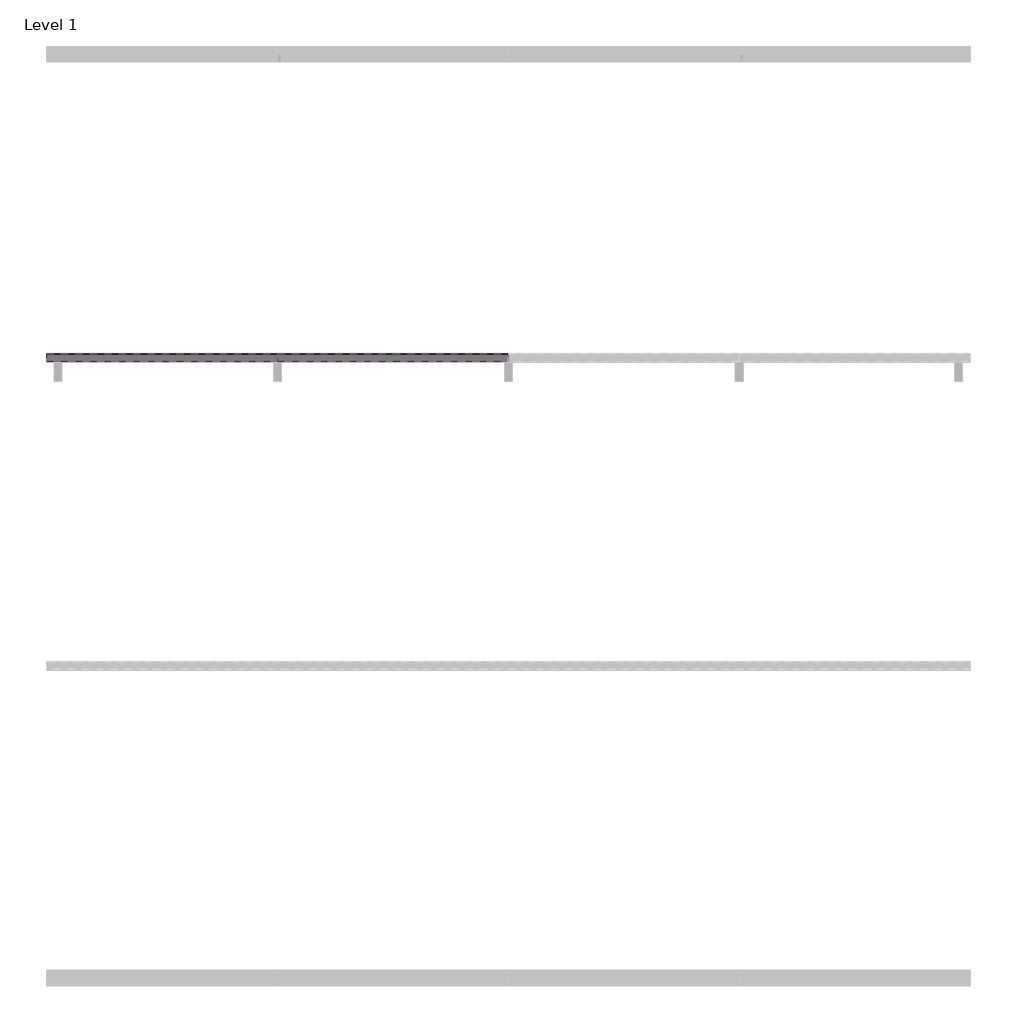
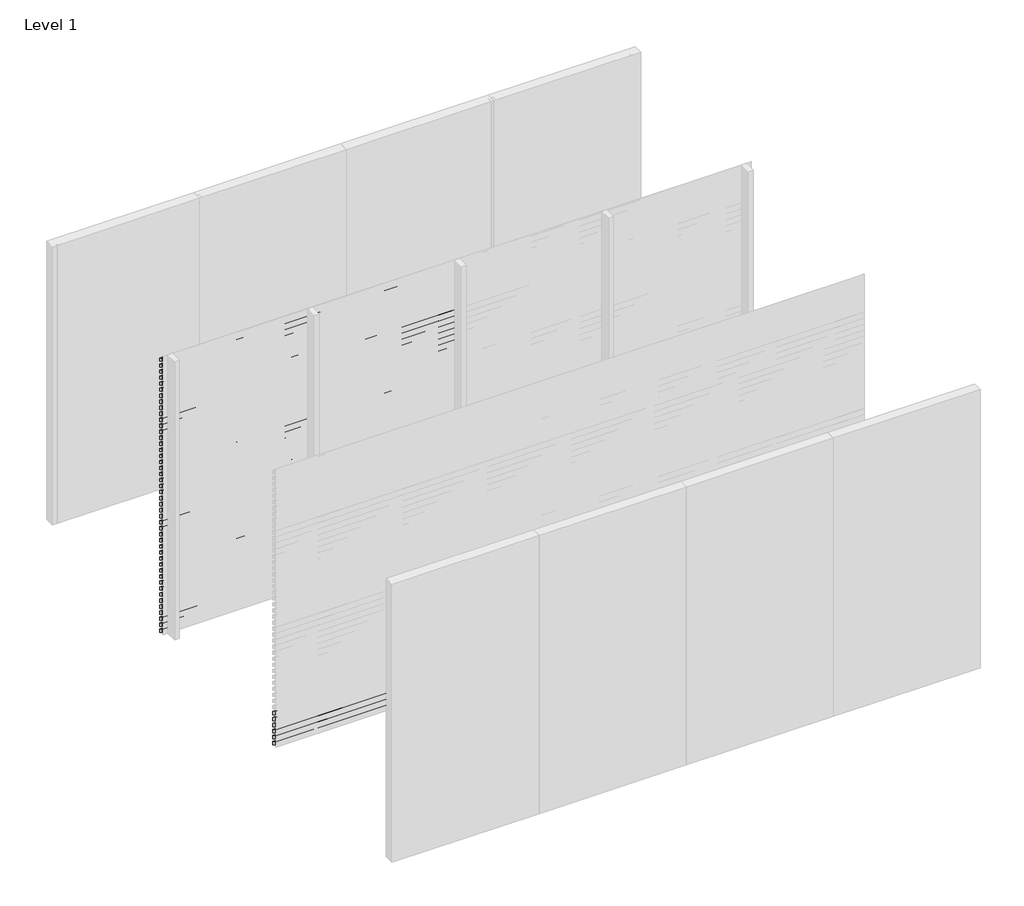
# One storey, part 2 of 10: 96 proxies.
"""IFC4 building model written with IfcOpenShell, lengths in millimetres."""

import ifcopenshell
import ifcopenshell.guid

model = None  # the IFC model being written
_history = None  # IfcOwnerHistory: only IFC2X3 demands one
_inside = {}  # id of a spatial element -> (the spatial element, [elements in it])
_under = {}  # id of a project, library or spatial element -> (it, [spatial elements below it])
_declared = {}  # id of a project -> (the project, [libraries it declares])
_typed = {}  # id of a type object -> (the type object, [elements of that type])
_made_of = {}  # id of a material, layer set ... -> (it, [elements and type objects made of it])


def new_model(schema):
    """Start an empty IFC model of exactly this schema.

    Asked for "IFC4X3", IfcOpenShell would pick the latest addendum, in which some entities
    have other attributes; the version numbers below select the first issue.
    IFC2X3 requires an IfcOwnerHistory on every rooted entity: one is made here for all.
    """
    global model, _history
    if schema == "IFC4X3":
        model = ifcopenshell.file(schema_version=(4, 3, 0, 0))
    else:
        model = ifcopenshell.file(schema=schema)
    _inside.clear()
    _under.clear()
    _declared.clear()
    _typed.clear()
    _made_of.clear()
    _history = None
    if model.schema == "IFC2X3":
        org = make("IfcOrganization", Name="unknown")
        user = make(
            "IfcPersonAndOrganization",
            ThePerson=make("IfcPerson", FamilyName="unknown"),
            TheOrganization=org,
        )
        app = make(
            "IfcApplication",
            ApplicationDeveloper=org,
            Version="unknown",
            ApplicationFullName="unknown",
            ApplicationIdentifier="unknown",
        )
        _history = make(
            "IfcOwnerHistory",
            OwningUser=user,
            OwningApplication=app,
            ChangeAction="ADDED",
            CreationDate=0,
        )
    return model


def make(cls, **values):
    """One entity of the class cls with the attributes given. An attribute that is None is left unset."""
    return model.create_entity(
        cls, **{name: value for name, value in values.items() if value is not None}
    )


def rooted(cls, **values):
    """An entity with a GlobalId (a new one), such as an element, a storey or a relation."""
    return make(cls, GlobalId=ifcopenshell.guid.new(), OwnerHistory=_history, **values)


def si_unit(unit_type, name, prefix=None):
    """IfcSIUnit, for example si_unit("LENGTHUNIT", "METRE", prefix="MILLI")."""
    return make("IfcSIUnit", UnitType=unit_type, Prefix=prefix, Name=name)


def assignment(units):
    """IfcUnitAssignment: the units of a project."""
    return None if units is None else make("IfcUnitAssignment", Units=units)


def point(xyz):
    """IfcCartesianPoint."""
    return None if xyz is None else make("IfcCartesianPoint", Coordinates=xyz)


def direction(xyz):
    """IfcDirection."""
    return None if xyz is None else make("IfcDirection", DirectionRatios=xyz)


def frame(location, z_axis=None, x_axis=None):
    """IfcAxis2Placement3D, a coordinate frame: its origin and axes. An axis left out is left unset."""
    return make(
        "IfcAxis2Placement3D",
        Location=point(location),
        Axis=direction(z_axis),
        RefDirection=direction(x_axis),
    )


def origin():
    """The frame at (0, 0, 0) with its axes left unset."""
    return frame((0.0, 0.0, 0.0))


def place(relative_to, where):
    """IfcLocalPlacement: puts the frame where relative to a parent placement (None: the world)."""
    return make(
        "IfcLocalPlacement", PlacementRelTo=relative_to, RelativePlacement=where
    )


def context(
    kind, dimensions, precision=None, world=None, true_north=None, identifier=None
):
    """IfcGeometricRepresentationContext, for example the 3D "Model" context."""
    return make(
        "IfcGeometricRepresentationContext",
        ContextIdentifier=identifier,
        ContextType=kind,
        CoordinateSpaceDimension=dimensions,
        Precision=precision,
        WorldCoordinateSystem=world,
        TrueNorth=true_north,
    )


def project(units=None, contexts=None):
    """IfcProject with its units and contexts."""
    return rooted(
        "IfcProject",
        Name="project",
        RepresentationContexts=contexts,
        UnitsInContext=assignment(units),
    )


def spatial(cls, under=None, at=None, **own):
    """A site, building, storey or space (cls), placed at a placement, below another one or the project."""
    s = rooted(cls, ObjectPlacement=at, **own)
    if under is not None:
        _under.setdefault(under.id(), (under, []))[1].append(s)
    return s


def polyline(points):
    """IfcPolyline through the points."""
    return make("IfcPolyline", Points=[point(p) for p in points])


def outline(outer, holes=None, kind="AREA"):
    """IfcArbitraryClosedProfileDef: a profile drawn as a closed curve; with holes, ...WithVoids."""
    if holes is None:
        return make("IfcArbitraryClosedProfileDef", ProfileType=kind, OuterCurve=outer)
    return make(
        "IfcArbitraryProfileDefWithVoids",
        ProfileType=kind,
        OuterCurve=outer,
        InnerCurves=holes,
    )


def extrude(swept, where, along, depth):
    """IfcExtrudedAreaSolid: the profile swept, set in the frame where, extruded along a direction by depth."""
    return make(
        "IfcExtrudedAreaSolid",
        SweptArea=swept,
        Position=where,
        ExtrudedDirection=direction(along),
        Depth=depth,
    )


def shape(context_of_items, identifier, shape_type, items):
    """IfcShapeRepresentation: the items that make up one representation, for example the "Body"."""
    return make(
        "IfcShapeRepresentation",
        ContextOfItems=context_of_items,
        RepresentationIdentifier=identifier,
        RepresentationType=shape_type,
        Items=items,
    )


def made_of(thing, what):
    """Note that an element or type object is made of a material, layer set ...; save() writes the relation."""
    if what is not None:
        _made_of.setdefault(what.id(), (what, []))[1].append(thing)
    return thing


def element(
    cls,
    number,
    at=None,
    inside=None,
    cuts=None,
    type_object=None,
    material=None,
    context=None,
    identifier="Body",
    shape_type=None,
    held_by="IfcProductDefinitionShape",
    body=None,
    shapes=None,
    **own,
):
    """One element of the class cls, such as IfcWall. Its Tag is "e" and its number.

    at: its placement. inside: the storey or other place that contains it. cuts: it is an
    opening in that element (IfcRelVoidsElement). A single representation is given by context,
    identifier, shape_type and body (its items); several are given by shapes. held_by: the class
    of the entity that holds the representations. save() writes the other relations.
    """
    e = rooted(cls, Tag="e%d" % number, ObjectPlacement=at, **own)
    if body is not None:
        shapes = [shape(context, identifier, shape_type, body)]
    if shapes is not None:
        e.Representation = make(held_by, Representations=shapes)
    if inside is not None:
        _inside.setdefault(inside.id(), (inside, []))[1].append(e)
    if cuts is not None:
        rooted(
            "IfcRelVoidsElement", RelatingBuildingElement=cuts, RelatedOpeningElement=e
        )
    if type_object is not None:
        _typed.setdefault(type_object.id(), (type_object, []))[1].append(e)
    return made_of(e, material)


def aggregate(whole, parts):
    """IfcRelAggregates: a whole, such as a stair, and the parts it consists of."""
    return rooted("IfcRelAggregates", RelatingObject=whole, RelatedObjects=parts)


def save(model, path):
    """Write the relations noted so far, then the file.

    IfcRelAggregates (storeys below a building ...), IfcRelContainedInSpatialStructure (elements
    in a storey), IfcRelDefinesByType, IfcRelAssociatesMaterial and IfcRelDeclares: one each for
    every whole, place, type object, material and project.
    """
    for whole, parts in _under.values():
        aggregate(whole, parts)
    for where, things in _inside.values():
        rooted(
            "IfcRelContainedInSpatialStructure",
            RelatedElements=things,
            RelatingStructure=where,
        )
    for kind, things in _typed.values():
        rooted("IfcRelDefinesByType", RelatedObjects=things, RelatingType=kind)
    for what, things in _made_of.values():
        rooted("IfcRelAssociatesMaterial", RelatedObjects=things, RelatingMaterial=what)
    for by, libraries in _declared.values():
        rooted("IfcRelDeclares", RelatingContext=by, RelatedDefinitions=libraries)
    model.write(path)


model = new_model("IFC4")

# Units and contexts
model_context = context("Model", 3, world=origin())
ifc_project = project(units=[si_unit("LENGTHUNIT", "METRE", prefix="MILLI")], contexts=[model_context])

# Site, building, storey
site = spatial("IfcSite", under=ifc_project)
building = spatial("IfcBuilding", under=site)
storey = spatial("IfcBuildingStorey", under=building, Name="Level 1", Elevation=0.0)

# Proxies
placement = place(None, origin())
element("IfcBuildingElementProxy", 1, Name="Wall Sweeps", at=placement, inside=storey, context=model_context, shape_type="SweptSolid", body=[
    extrude(outline(polyline([(-17995.0, 2990.0), (-17995.0, 2981.2901632), (-17946.0, 2953.0), (-17946.0, 2918.0), (-17997.0, 2947.4448637), (-17997.0, 2990.0), (-17995.0, 2990.0)])), frame((1500.0000002, 0.0, 0.0), z_axis=(1.0, 0.0, 0.0), x_axis=(0.0, 1.0, 0.0)), (0.0, 0.0, 1.0), 1499.9999998),
])
element("IfcBuildingElementProxy", 2, Name="Wall Sweeps", at=placement, inside=storey, context=model_context, shape_type="SweptSolid", body=[
    extrude(outline(polyline([(-17995.0, 2925.0), (-17995.0, 2916.2901632), (-17946.0, 2888.0), (-17946.0, 2853.0), (-17997.0, 2882.4448637), (-17997.0, 2925.0), (-17995.0, 2925.0)])), frame((1500.0000002, 0.0, 0.0), z_axis=(1.0, 0.0, 0.0), x_axis=(0.0, 1.0, 0.0)), (0.0, 0.0, 1.0), 1499.9999998),
])
element("IfcBuildingElementProxy", 3, Name="Wall Sweeps", at=placement, inside=storey, context=model_context, shape_type="SweptSolid", body=[
    extrude(outline(polyline([(-17995.0, 2860.0), (-17995.0, 2851.2901632), (-17946.0, 2823.0), (-17946.0, 2788.0), (-17997.0, 2817.4448637), (-17997.0, 2860.0), (-17995.0, 2860.0)])), frame((1500.0000002, 0.0, 0.0), z_axis=(1.0, 0.0, 0.0), x_axis=(0.0, 1.0, 0.0)), (0.0, 0.0, 1.0), 1499.9999998),
])
element("IfcBuildingElementProxy", 4, Name="Wall Sweeps", at=placement, inside=storey, context=model_context, shape_type="SweptSolid", body=[
    extrude(outline(polyline([(-17995.0, 2795.0), (-17995.0, 2786.2901632), (-17946.0, 2758.0), (-17946.0, 2723.0), (-17997.0, 2752.4448637), (-17997.0, 2795.0), (-17995.0, 2795.0)])), frame((1500.0000002, 0.0, 0.0), z_axis=(1.0, 0.0, 0.0), x_axis=(0.0, 1.0, 0.0)), (0.0, 0.0, 1.0), 1499.9999998),
])
element("IfcBuildingElementProxy", 5, Name="Wall Sweeps", at=placement, inside=storey, context=model_context, shape_type="SweptSolid", body=[
    extrude(outline(polyline([(-17995.0, 2730.0), (-17995.0, 2721.2901632), (-17946.0, 2693.0), (-17946.0, 2658.0), (-17997.0, 2687.4448637), (-17997.0, 2730.0), (-17995.0, 2730.0)])), frame((1500.0000002, 0.0, 0.0), z_axis=(1.0, 0.0, 0.0), x_axis=(0.0, 1.0, 0.0)), (0.0, 0.0, 1.0), 1499.9999998),
])
element("IfcBuildingElementProxy", 6, Name="Wall Sweeps", at=placement, inside=storey, context=model_context, shape_type="SweptSolid", body=[
    extrude(outline(polyline([(-17995.0, 2665.0), (-17995.0, 2656.2901632), (-17946.0, 2628.0), (-17946.0, 2593.0), (-17997.0, 2622.4448637), (-17997.0, 2665.0), (-17995.0, 2665.0)])), frame((1500.0000002, 0.0, 0.0), z_axis=(1.0, 0.0, 0.0), x_axis=(0.0, 1.0, 0.0)), (0.0, 0.0, 1.0), 1499.9999998),
])
element("IfcBuildingElementProxy", 7, Name="Wall Sweeps", at=placement, inside=storey, context=model_context, shape_type="SweptSolid", body=[
    extrude(outline(polyline([(-17995.0, 2600.0), (-17995.0, 2591.2901632), (-17946.0, 2563.0), (-17946.0, 2528.0), (-17997.0, 2557.4448637), (-17997.0, 2600.0), (-17995.0, 2600.0)])), frame((1500.0000002, 0.0, 0.0), z_axis=(1.0, 0.0, 0.0), x_axis=(0.0, 1.0, 0.0)), (0.0, 0.0, 1.0), 1499.9999998),
])
element("IfcBuildingElementProxy", 8, Name="Wall Sweeps", at=placement, inside=storey, context=model_context, shape_type="SweptSolid", body=[
    extrude(outline(polyline([(-17995.0, 2535.0), (-17995.0, 2526.2901632), (-17946.0, 2498.0), (-17946.0, 2463.0), (-17997.0, 2492.4448637), (-17997.0, 2535.0), (-17995.0, 2535.0)])), frame((1500.0000002, 0.0, 0.0), z_axis=(1.0, 0.0, 0.0), x_axis=(0.0, 1.0, 0.0)), (0.0, 0.0, 1.0), 1499.9999998),
])
element("IfcBuildingElementProxy", 9, Name="Wall Sweeps", at=placement, inside=storey, context=model_context, shape_type="SweptSolid", body=[
    extrude(outline(polyline([(-17995.0, 2470.0), (-17995.0, 2461.2901632), (-17946.0, 2433.0), (-17946.0, 2398.0), (-17997.0, 2427.4448637), (-17997.0, 2470.0), (-17995.0, 2470.0)])), frame((1500.0000002, 0.0, 0.0), z_axis=(1.0, 0.0, 0.0), x_axis=(0.0, 1.0, 0.0)), (0.0, 0.0, 1.0), 1499.9999998),
])
element("IfcBuildingElementProxy", 10, Name="Wall Sweeps", at=placement, inside=storey, context=model_context, shape_type="SweptSolid", body=[
    extrude(outline(polyline([(-17995.0, 2405.0), (-17995.0, 2396.2901632), (-17946.0, 2368.0), (-17946.0, 2333.0), (-17997.0, 2362.4448637), (-17997.0, 2405.0), (-17995.0, 2405.0)])), frame((1500.0000002, 0.0, 0.0), z_axis=(1.0, 0.0, 0.0), x_axis=(0.0, 1.0, 0.0)), (0.0, 0.0, 1.0), 1499.9999998),
])
element("IfcBuildingElementProxy", 11, Name="Wall Sweeps", at=placement, inside=storey, context=model_context, shape_type="SweptSolid", body=[
    extrude(outline(polyline([(-17995.0, 2340.0), (-17995.0, 2331.2901632), (-17946.0, 2303.0), (-17946.0, 2268.0), (-17997.0, 2297.4448637), (-17997.0, 2340.0), (-17995.0, 2340.0)])), frame((1500.0000002, 0.0, 0.0), z_axis=(1.0, 0.0, 0.0), x_axis=(0.0, 1.0, 0.0)), (0.0, 0.0, 1.0), 1499.9999998),
])
element("IfcBuildingElementProxy", 12, Name="Wall Sweeps", at=placement, inside=storey, context=model_context, shape_type="SweptSolid", body=[
    extrude(outline(polyline([(-17995.0, 2275.0), (-17995.0, 2266.2901632), (-17946.0, 2238.0), (-17946.0, 2203.0), (-17997.0, 2232.4448637), (-17997.0, 2275.0), (-17995.0, 2275.0)])), frame((1500.0000002, 0.0, 0.0), z_axis=(1.0, 0.0, 0.0), x_axis=(0.0, 1.0, 0.0)), (0.0, 0.0, 1.0), 1499.9999998),
])
element("IfcBuildingElementProxy", 13, Name="Wall Sweeps", at=placement, inside=storey, context=model_context, shape_type="SweptSolid", body=[
    extrude(outline(polyline([(-17995.0, 2210.0), (-17995.0, 2201.2901632), (-17946.0, 2173.0), (-17946.0, 2138.0), (-17997.0, 2167.4448637), (-17997.0, 2210.0), (-17995.0, 2210.0)])), frame((1500.0000002, 0.0, 0.0), z_axis=(1.0, 0.0, 0.0), x_axis=(0.0, 1.0, 0.0)), (0.0, 0.0, 1.0), 1499.9999998),
])
element("IfcBuildingElementProxy", 14, Name="Wall Sweeps", at=placement, inside=storey, context=model_context, shape_type="SweptSolid", body=[
    extrude(outline(polyline([(-17995.0, 2145.0), (-17995.0, 2136.2901632), (-17946.0, 2108.0), (-17946.0, 2073.0), (-17997.0, 2102.4448637), (-17997.0, 2145.0), (-17995.0, 2145.0)])), frame((1500.0000002, 0.0, 0.0), z_axis=(1.0, 0.0, 0.0), x_axis=(0.0, 1.0, 0.0)), (0.0, 0.0, 1.0), 1499.9999998),
])
element("IfcBuildingElementProxy", 15, Name="Wall Sweeps", at=placement, inside=storey, context=model_context, shape_type="SweptSolid", body=[
    extrude(outline(polyline([(-17995.0, 2080.0), (-17995.0, 2071.2901632), (-17946.0, 2043.0), (-17946.0, 2008.0), (-17997.0, 2037.4448637), (-17997.0, 2080.0), (-17995.0, 2080.0)])), frame((1500.0000002, 0.0, 0.0), z_axis=(1.0, 0.0, 0.0), x_axis=(0.0, 1.0, 0.0)), (0.0, 0.0, 1.0), 1499.9999998),
])
element("IfcBuildingElementProxy", 16, Name="Wall Sweeps", at=placement, inside=storey, context=model_context, shape_type="SweptSolid", body=[
    extrude(outline(polyline([(-17995.0, 2015.0), (-17995.0, 2006.2901632), (-17946.0, 1978.0), (-17946.0, 1943.0), (-17997.0, 1972.4448637), (-17997.0, 2015.0), (-17995.0, 2015.0)])), frame((1500.0000002, 0.0, 0.0), z_axis=(1.0, 0.0, 0.0), x_axis=(0.0, 1.0, 0.0)), (0.0, 0.0, 1.0), 1499.9999998),
])
element("IfcBuildingElementProxy", 17, Name="Wall Sweeps", at=placement, inside=storey, context=model_context, shape_type="SweptSolid", body=[
    extrude(outline(polyline([(-17995.0, 1950.0), (-17995.0, 1941.2901632), (-17946.0, 1913.0), (-17946.0, 1878.0), (-17997.0, 1907.4448637), (-17997.0, 1950.0), (-17995.0, 1950.0)])), frame((1500.0000002, 0.0, 0.0), z_axis=(1.0, 0.0, 0.0), x_axis=(0.0, 1.0, 0.0)), (0.0, 0.0, 1.0), 1499.9999998),
])
element("IfcBuildingElementProxy", 18, Name="Wall Sweeps", at=placement, inside=storey, context=model_context, shape_type="SweptSolid", body=[
    extrude(outline(polyline([(-17995.0, 1885.0), (-17995.0, 1876.2901632), (-17946.0, 1848.0), (-17946.0, 1813.0), (-17997.0, 1842.4448637), (-17997.0, 1885.0), (-17995.0, 1885.0)])), frame((1500.0000002, 0.0, 0.0), z_axis=(1.0, 0.0, 0.0), x_axis=(0.0, 1.0, 0.0)), (0.0, 0.0, 1.0), 1499.9999998),
])
element("IfcBuildingElementProxy", 19, Name="Wall Sweeps", at=placement, inside=storey, context=model_context, shape_type="SweptSolid", body=[
    extrude(outline(polyline([(-17995.0, 1820.0), (-17995.0, 1811.2901632), (-17946.0, 1783.0), (-17946.0, 1748.0), (-17997.0, 1777.4448637), (-17997.0, 1820.0), (-17995.0, 1820.0)])), frame((1500.0000002, 0.0, 0.0), z_axis=(1.0, 0.0, 0.0), x_axis=(0.0, 1.0, 0.0)), (0.0, 0.0, 1.0), 1499.9999998),
])
element("IfcBuildingElementProxy", 20, Name="Wall Sweeps", at=placement, inside=storey, context=model_context, shape_type="SweptSolid", body=[
    extrude(outline(polyline([(-17995.0, 1755.0), (-17995.0, 1746.2901632), (-17946.0, 1718.0), (-17946.0, 1683.0), (-17997.0, 1712.4448637), (-17997.0, 1755.0), (-17995.0, 1755.0)])), frame((1500.0000002, 0.0, 0.0), z_axis=(1.0, 0.0, 0.0), x_axis=(0.0, 1.0, 0.0)), (0.0, 0.0, 1.0), 1499.9999998),
])
element("IfcBuildingElementProxy", 21, Name="Wall Sweeps", at=placement, inside=storey, context=model_context, shape_type="SweptSolid", body=[
    extrude(outline(polyline([(-17995.0, 1690.0), (-17995.0, 1681.2901632), (-17946.0, 1653.0), (-17946.0, 1618.0), (-17997.0, 1647.4448637), (-17997.0, 1690.0), (-17995.0, 1690.0)])), frame((1500.0000002, 0.0, 0.0), z_axis=(1.0, 0.0, 0.0), x_axis=(0.0, 1.0, 0.0)), (0.0, 0.0, 1.0), 1499.9999998),
])
element("IfcBuildingElementProxy", 22, Name="Wall Sweeps", at=placement, inside=storey, context=model_context, shape_type="SweptSolid", body=[
    extrude(outline(polyline([(-17995.0, 1625.0), (-17995.0, 1616.2901632), (-17946.0, 1588.0), (-17946.0, 1553.0), (-17997.0, 1582.4448637), (-17997.0, 1625.0), (-17995.0, 1625.0)])), frame((1500.0000002, 0.0, 0.0), z_axis=(1.0, 0.0, 0.0), x_axis=(0.0, 1.0, 0.0)), (0.0, 0.0, 1.0), 1499.9999998),
])
element("IfcBuildingElementProxy", 23, Name="Wall Sweeps", at=placement, inside=storey, context=model_context, shape_type="SweptSolid", body=[
    extrude(outline(polyline([(-17995.0, 1560.0), (-17995.0, 1551.2901632), (-17946.0, 1523.0), (-17946.0, 1488.0), (-17997.0, 1517.4448637), (-17997.0, 1560.0), (-17995.0, 1560.0)])), frame((1500.0000002, 0.0, 0.0), z_axis=(1.0, 0.0, 0.0), x_axis=(0.0, 1.0, 0.0)), (0.0, 0.0, 1.0), 1499.9999998),
])
element("IfcBuildingElementProxy", 24, Name="Wall Sweeps", at=placement, inside=storey, context=model_context, shape_type="SweptSolid", body=[
    extrude(outline(polyline([(-17995.0, 1495.0), (-17995.0, 1486.2901632), (-17946.0, 1458.0), (-17946.0, 1423.0), (-17997.0, 1452.4448637), (-17997.0, 1495.0), (-17995.0, 1495.0)])), frame((1500.0000002, 0.0, 0.0), z_axis=(1.0, 0.0, 0.0), x_axis=(0.0, 1.0, 0.0)), (0.0, 0.0, 1.0), 1499.9999998),
])
element("IfcBuildingElementProxy", 25, Name="Wall Sweeps", at=placement, inside=storey, context=model_context, shape_type="SweptSolid", body=[
    extrude(outline(polyline([(-17995.0, 1430.0), (-17995.0, 1421.2901632), (-17946.0, 1393.0), (-17946.0, 1358.0), (-17997.0, 1387.4448637), (-17997.0, 1430.0), (-17995.0, 1430.0)])), frame((1500.0000002, 0.0, 0.0), z_axis=(1.0, 0.0, 0.0), x_axis=(0.0, 1.0, 0.0)), (0.0, 0.0, 1.0), 1499.9999998),
])
element("IfcBuildingElementProxy", 26, Name="Wall Sweeps", at=placement, inside=storey, context=model_context, shape_type="SweptSolid", body=[
    extrude(outline(polyline([(-17995.0, 1365.0), (-17995.0, 1356.2901632), (-17946.0, 1328.0), (-17946.0, 1293.0), (-17997.0, 1322.4448637), (-17997.0, 1365.0), (-17995.0, 1365.0)])), frame((1500.0000002, 0.0, 0.0), z_axis=(1.0, 0.0, 0.0), x_axis=(0.0, 1.0, 0.0)), (0.0, 0.0, 1.0), 1499.9999998),
])
element("IfcBuildingElementProxy", 27, Name="Wall Sweeps", at=placement, inside=storey, context=model_context, shape_type="SweptSolid", body=[
    extrude(outline(polyline([(-17995.0, 1300.0), (-17995.0, 1291.2901632), (-17946.0, 1263.0), (-17946.0, 1228.0), (-17997.0, 1257.4448637), (-17997.0, 1300.0), (-17995.0, 1300.0)])), frame((1500.0000002, 0.0, 0.0), z_axis=(1.0, 0.0, 0.0), x_axis=(0.0, 1.0, 0.0)), (0.0, 0.0, 1.0), 1499.9999998),
])
element("IfcBuildingElementProxy", 28, Name="Wall Sweeps", at=placement, inside=storey, context=model_context, shape_type="SweptSolid", body=[
    extrude(outline(polyline([(-17995.0, 1235.0), (-17995.0, 1226.2901632), (-17946.0, 1198.0), (-17946.0, 1163.0), (-17997.0, 1192.4448637), (-17997.0, 1235.0), (-17995.0, 1235.0)])), frame((1500.0000002, 0.0, 0.0), z_axis=(1.0, 0.0, 0.0), x_axis=(0.0, 1.0, 0.0)), (0.0, 0.0, 1.0), 1499.9999998),
])
element("IfcBuildingElementProxy", 29, Name="Wall Sweeps", at=placement, inside=storey, context=model_context, shape_type="SweptSolid", body=[
    extrude(outline(polyline([(-17995.0, 1170.0), (-17995.0, 1161.2901632), (-17946.0, 1133.0), (-17946.0, 1098.0), (-17997.0, 1127.4448637), (-17997.0, 1170.0), (-17995.0, 1170.0)])), frame((1500.0000002, 0.0, 0.0), z_axis=(1.0, 0.0, 0.0), x_axis=(0.0, 1.0, 0.0)), (0.0, 0.0, 1.0), 1499.9999998),
])
element("IfcBuildingElementProxy", 30, Name="Wall Sweeps", at=placement, inside=storey, context=model_context, shape_type="SweptSolid", body=[
    extrude(outline(polyline([(-17995.0, 1105.0), (-17995.0, 1096.2901632), (-17946.0, 1068.0), (-17946.0, 1033.0), (-17997.0, 1062.4448637), (-17997.0, 1105.0), (-17995.0, 1105.0)])), frame((1500.0000002, 0.0, 0.0), z_axis=(1.0, 0.0, 0.0), x_axis=(0.0, 1.0, 0.0)), (0.0, 0.0, 1.0), 1499.9999998),
])
element("IfcBuildingElementProxy", 31, Name="Wall Sweeps", at=placement, inside=storey, context=model_context, shape_type="SweptSolid", body=[
    extrude(outline(polyline([(-17995.0, 1040.0), (-17995.0, 1031.2901632), (-17946.0, 1003.0), (-17946.0, 968.0), (-17997.0, 997.4448637), (-17997.0, 1040.0), (-17995.0, 1040.0)])), frame((1500.0000002, 0.0, 0.0), z_axis=(1.0, 0.0, 0.0), x_axis=(0.0, 1.0, 0.0)), (0.0, 0.0, 1.0), 1499.9999998),
])
element("IfcBuildingElementProxy", 32, Name="Wall Sweeps", at=placement, inside=storey, context=model_context, shape_type="SweptSolid", body=[
    extrude(outline(polyline([(-17995.0, 975.0), (-17995.0, 966.2901632), (-17946.0, 938.0), (-17946.0, 903.0), (-17997.0, 932.4448637), (-17997.0, 975.0), (-17995.0, 975.0)])), frame((1500.0000002, 0.0, 0.0), z_axis=(1.0, 0.0, 0.0), x_axis=(0.0, 1.0, 0.0)), (0.0, 0.0, 1.0), 1499.9999998),
])
element("IfcBuildingElementProxy", 33, Name="Wall Sweeps", at=placement, inside=storey, context=model_context, shape_type="SweptSolid", body=[
    extrude(outline(polyline([(-17995.0, 910.0), (-17995.0, 901.2901632), (-17946.0, 873.0), (-17946.0, 838.0), (-17997.0, 867.4448637), (-17997.0, 910.0), (-17995.0, 910.0)])), frame((1500.0000002, 0.0, 0.0), z_axis=(1.0, 0.0, 0.0), x_axis=(0.0, 1.0, 0.0)), (0.0, 0.0, 1.0), 1499.9999998),
])
element("IfcBuildingElementProxy", 34, Name="Wall Sweeps", at=placement, inside=storey, context=model_context, shape_type="SweptSolid", body=[
    extrude(outline(polyline([(-17995.0, 845.0), (-17995.0, 836.2901632), (-17946.0, 808.0), (-17946.0, 773.0), (-17997.0, 802.4448637), (-17997.0, 845.0), (-17995.0, 845.0)])), frame((1500.0000002, 0.0, 0.0), z_axis=(1.0, 0.0, 0.0), x_axis=(0.0, 1.0, 0.0)), (0.0, 0.0, 1.0), 1499.9999998),
])
element("IfcBuildingElementProxy", 35, Name="Wall Sweeps", at=placement, inside=storey, context=model_context, shape_type="SweptSolid", body=[
    extrude(outline(polyline([(-17995.0, 780.0), (-17995.0, 771.2901632), (-17946.0, 743.0), (-17946.0, 708.0), (-17997.0, 737.4448637), (-17997.0, 780.0), (-17995.0, 780.0)])), frame((1500.0000002, 0.0, 0.0), z_axis=(1.0, 0.0, 0.0), x_axis=(0.0, 1.0, 0.0)), (0.0, 0.0, 1.0), 1499.9999998),
])
element("IfcBuildingElementProxy", 36, Name="Wall Sweeps", at=placement, inside=storey, context=model_context, shape_type="SweptSolid", body=[
    extrude(outline(polyline([(-17995.0, 715.0), (-17995.0, 706.2901632), (-17946.0, 678.0), (-17946.0, 643.0), (-17997.0, 672.4448637), (-17997.0, 715.0), (-17995.0, 715.0)])), frame((1500.0000002, 0.0, 0.0), z_axis=(1.0, 0.0, 0.0), x_axis=(0.0, 1.0, 0.0)), (0.0, 0.0, 1.0), 1499.9999998),
])
element("IfcBuildingElementProxy", 37, Name="Wall Sweeps", at=placement, inside=storey, context=model_context, shape_type="SweptSolid", body=[
    extrude(outline(polyline([(-17995.0, 650.0), (-17995.0, 641.2901632), (-17946.0, 613.0), (-17946.0, 578.0), (-17997.0, 607.4448637), (-17997.0, 650.0), (-17995.0, 650.0)])), frame((1500.0000002, 0.0, 0.0), z_axis=(1.0, 0.0, 0.0), x_axis=(0.0, 1.0, 0.0)), (0.0, 0.0, 1.0), 1499.9999998),
])
element("IfcBuildingElementProxy", 38, Name="Wall Sweeps", at=placement, inside=storey, context=model_context, shape_type="SweptSolid", body=[
    extrude(outline(polyline([(-17995.0, 585.0), (-17995.0, 576.2901632), (-17946.0, 548.0), (-17946.0, 513.0), (-17997.0, 542.4448637), (-17997.0, 585.0), (-17995.0, 585.0)])), frame((1500.0000002, 0.0, 0.0), z_axis=(1.0, 0.0, 0.0), x_axis=(0.0, 1.0, 0.0)), (0.0, 0.0, 1.0), 1499.9999998),
])
element("IfcBuildingElementProxy", 39, Name="Wall Sweeps", at=placement, inside=storey, context=model_context, shape_type="SweptSolid", body=[
    extrude(outline(polyline([(-17995.0, 520.0), (-17995.0, 511.2901632), (-17946.0, 483.0), (-17946.0, 448.0), (-17997.0, 477.4448637), (-17997.0, 520.0), (-17995.0, 520.0)])), frame((1500.0000002, 0.0, 0.0), z_axis=(1.0, 0.0, 0.0), x_axis=(0.0, 1.0, 0.0)), (0.0, 0.0, 1.0), 1499.9999998),
])
element("IfcBuildingElementProxy", 40, Name="Wall Sweeps", at=placement, inside=storey, context=model_context, shape_type="SweptSolid", body=[
    extrude(outline(polyline([(-17995.0, 455.0), (-17995.0, 446.2901632), (-17946.0, 418.0), (-17946.0, 383.0), (-17997.0, 412.4448637), (-17997.0, 455.0), (-17995.0, 455.0)])), frame((1500.0000002, 0.0, 0.0), z_axis=(1.0, 0.0, 0.0), x_axis=(0.0, 1.0, 0.0)), (0.0, 0.0, 1.0), 1499.9999998),
])
element("IfcBuildingElementProxy", 41, Name="Wall Sweeps", at=placement, inside=storey, context=model_context, shape_type="SweptSolid", body=[
    extrude(outline(polyline([(-17995.0, 390.0), (-17995.0, 381.2901632), (-17946.0, 353.0), (-17946.0, 318.0), (-17997.0, 347.4448637), (-17997.0, 390.0), (-17995.0, 390.0)])), frame((1500.0000002, 0.0, 0.0), z_axis=(1.0, 0.0, 0.0), x_axis=(0.0, 1.0, 0.0)), (0.0, 0.0, 1.0), 1499.9999998),
])
element("IfcBuildingElementProxy", 42, Name="Wall Sweeps", at=placement, inside=storey, context=model_context, shape_type="SweptSolid", body=[
    extrude(outline(polyline([(-17995.0, 325.0), (-17995.0, 316.2901632), (-17946.0, 288.0), (-17946.0, 253.0), (-17997.0, 282.4448637), (-17997.0, 325.0), (-17995.0, 325.0)])), frame((1500.0000002, 0.0, 0.0), z_axis=(1.0, 0.0, 0.0), x_axis=(0.0, 1.0, 0.0)), (0.0, 0.0, 1.0), 1499.9999998),
])
element("IfcBuildingElementProxy", 43, Name="Wall Sweeps", at=placement, inside=storey, context=model_context, shape_type="SweptSolid", body=[
    extrude(outline(polyline([(-17995.0, 260.0), (-17995.0, 251.2901632), (-17946.0, 223.0), (-17946.0, 188.0), (-17997.0, 217.4448637), (-17997.0, 260.0), (-17995.0, 260.0)])), frame((1500.0000002, 0.0, 0.0), z_axis=(1.0, 0.0, 0.0), x_axis=(0.0, 1.0, 0.0)), (0.0, 0.0, 1.0), 1499.9999998),
])
element("IfcBuildingElementProxy", 44, Name="Wall Sweeps", at=placement, inside=storey, context=model_context, shape_type="SweptSolid", body=[
    extrude(outline(polyline([(-17995.0, 195.0), (-17995.0, 186.2901632), (-17946.0, 158.0), (-17946.0, 123.0), (-17997.0, 152.4448637), (-17997.0, 195.0), (-17995.0, 195.0)])), frame((1500.0000002, 0.0, 0.0), z_axis=(1.0, 0.0, 0.0), x_axis=(0.0, 1.0, 0.0)), (0.0, 0.0, 1.0), 1499.9999998),
])
element("IfcBuildingElementProxy", 45, Name="Wall Sweeps", at=placement, inside=storey, context=model_context, shape_type="SweptSolid", body=[
    extrude(outline(polyline([(-17995.0, 2990.0), (-17995.0, 2981.2901632), (-17946.0, 2953.0), (-17946.0, 2918.0), (-17997.0, 2947.4448637), (-17997.0, 2990.0), (-17995.0, 2990.0)])), frame((0.0, 0.0, 0.0), z_axis=(1.0, 0.0, 0.0), x_axis=(0.0, 1.0, 0.0)), (0.0, 0.0, 1.0), 1500.0000002),
])
element("IfcBuildingElementProxy", 46, Name="Wall Sweeps", at=placement, inside=storey, context=model_context, shape_type="SweptSolid", body=[
    extrude(outline(polyline([(-17995.0, 2925.0), (-17995.0, 2916.2901632), (-17946.0, 2888.0), (-17946.0, 2853.0), (-17997.0, 2882.4448637), (-17997.0, 2925.0), (-17995.0, 2925.0)])), frame((0.0, 0.0, 0.0), z_axis=(1.0, 0.0, 0.0), x_axis=(0.0, 1.0, 0.0)), (0.0, 0.0, 1.0), 1500.0000002),
])
element("IfcBuildingElementProxy", 47, Name="Wall Sweeps", at=placement, inside=storey, context=model_context, shape_type="SweptSolid", body=[
    extrude(outline(polyline([(-17995.0, 2860.0), (-17995.0, 2851.2901632), (-17946.0, 2823.0), (-17946.0, 2788.0), (-17997.0, 2817.4448637), (-17997.0, 2860.0), (-17995.0, 2860.0)])), frame((0.0, 0.0, 0.0), z_axis=(1.0, 0.0, 0.0), x_axis=(0.0, 1.0, 0.0)), (0.0, 0.0, 1.0), 1500.0000002),
])
element("IfcBuildingElementProxy", 48, Name="Wall Sweeps", at=placement, inside=storey, context=model_context, shape_type="SweptSolid", body=[
    extrude(outline(polyline([(-17995.0, 2795.0), (-17995.0, 2786.2901632), (-17946.0, 2758.0), (-17946.0, 2723.0), (-17997.0, 2752.4448637), (-17997.0, 2795.0), (-17995.0, 2795.0)])), frame((0.0, 0.0, 0.0), z_axis=(1.0, 0.0, 0.0), x_axis=(0.0, 1.0, 0.0)), (0.0, 0.0, 1.0), 1500.0000002),
])
element("IfcBuildingElementProxy", 49, Name="Wall Sweeps", at=placement, inside=storey, context=model_context, shape_type="SweptSolid", body=[
    extrude(outline(polyline([(-17995.0, 2730.0), (-17995.0, 2721.2901632), (-17946.0, 2693.0), (-17946.0, 2658.0), (-17997.0, 2687.4448637), (-17997.0, 2730.0), (-17995.0, 2730.0)])), frame((0.0, 0.0, 0.0), z_axis=(1.0, 0.0, 0.0), x_axis=(0.0, 1.0, 0.0)), (0.0, 0.0, 1.0), 1500.0000002),
])
element("IfcBuildingElementProxy", 50, Name="Wall Sweeps", at=placement, inside=storey, context=model_context, shape_type="SweptSolid", body=[
    extrude(outline(polyline([(-17995.0, 2665.0), (-17995.0, 2656.2901632), (-17946.0, 2628.0), (-17946.0, 2593.0), (-17997.0, 2622.4448637), (-17997.0, 2665.0), (-17995.0, 2665.0)])), frame((0.0, 0.0, 0.0), z_axis=(1.0, 0.0, 0.0), x_axis=(0.0, 1.0, 0.0)), (0.0, 0.0, 1.0), 1500.0000002),
])
element("IfcBuildingElementProxy", 51, Name="Wall Sweeps", at=placement, inside=storey, context=model_context, shape_type="SweptSolid", body=[
    extrude(outline(polyline([(-17995.0, 2600.0), (-17995.0, 2591.2901632), (-17946.0, 2563.0), (-17946.0, 2528.0), (-17997.0, 2557.4448637), (-17997.0, 2600.0), (-17995.0, 2600.0)])), frame((0.0, 0.0, 0.0), z_axis=(1.0, 0.0, 0.0), x_axis=(0.0, 1.0, 0.0)), (0.0, 0.0, 1.0), 1500.0000002),
])
element("IfcBuildingElementProxy", 52, Name="Wall Sweeps", at=placement, inside=storey, context=model_context, shape_type="SweptSolid", body=[
    extrude(outline(polyline([(-17995.0, 2535.0), (-17995.0, 2526.2901632), (-17946.0, 2498.0), (-17946.0, 2463.0), (-17997.0, 2492.4448637), (-17997.0, 2535.0), (-17995.0, 2535.0)])), frame((0.0, 0.0, 0.0), z_axis=(1.0, 0.0, 0.0), x_axis=(0.0, 1.0, 0.0)), (0.0, 0.0, 1.0), 1500.0000002),
])
element("IfcBuildingElementProxy", 53, Name="Wall Sweeps", at=placement, inside=storey, context=model_context, shape_type="SweptSolid", body=[
    extrude(outline(polyline([(-17995.0, 2470.0), (-17995.0, 2461.2901632), (-17946.0, 2433.0), (-17946.0, 2398.0), (-17997.0, 2427.4448637), (-17997.0, 2470.0), (-17995.0, 2470.0)])), frame((0.0, 0.0, 0.0), z_axis=(1.0, 0.0, 0.0), x_axis=(0.0, 1.0, 0.0)), (0.0, 0.0, 1.0), 1500.0000002),
])
element("IfcBuildingElementProxy", 54, Name="Wall Sweeps", at=placement, inside=storey, context=model_context, shape_type="SweptSolid", body=[
    extrude(outline(polyline([(-17995.0, 2405.0), (-17995.0, 2396.2901632), (-17946.0, 2368.0), (-17946.0, 2333.0), (-17997.0, 2362.4448637), (-17997.0, 2405.0), (-17995.0, 2405.0)])), frame((0.0, 0.0, 0.0), z_axis=(1.0, 0.0, 0.0), x_axis=(0.0, 1.0, 0.0)), (0.0, 0.0, 1.0), 1500.0000002),
])
element("IfcBuildingElementProxy", 55, Name="Wall Sweeps", at=placement, inside=storey, context=model_context, shape_type="SweptSolid", body=[
    extrude(outline(polyline([(-17995.0, 2340.0), (-17995.0, 2331.2901632), (-17946.0, 2303.0), (-17946.0, 2268.0), (-17997.0, 2297.4448637), (-17997.0, 2340.0), (-17995.0, 2340.0)])), frame((0.0, 0.0, 0.0), z_axis=(1.0, 0.0, 0.0), x_axis=(0.0, 1.0, 0.0)), (0.0, 0.0, 1.0), 1500.0000002),
])
element("IfcBuildingElementProxy", 56, Name="Wall Sweeps", at=placement, inside=storey, context=model_context, shape_type="SweptSolid", body=[
    extrude(outline(polyline([(-17995.0, 2275.0), (-17995.0, 2266.2901632), (-17946.0, 2238.0), (-17946.0, 2203.0), (-17997.0, 2232.4448637), (-17997.0, 2275.0), (-17995.0, 2275.0)])), frame((0.0, 0.0, 0.0), z_axis=(1.0, 0.0, 0.0), x_axis=(0.0, 1.0, 0.0)), (0.0, 0.0, 1.0), 1500.0000002),
])
element("IfcBuildingElementProxy", 57, Name="Wall Sweeps", at=placement, inside=storey, context=model_context, shape_type="SweptSolid", body=[
    extrude(outline(polyline([(-17995.0, 2210.0), (-17995.0, 2201.2901632), (-17946.0, 2173.0), (-17946.0, 2138.0), (-17997.0, 2167.4448637), (-17997.0, 2210.0), (-17995.0, 2210.0)])), frame((0.0, 0.0, 0.0), z_axis=(1.0, 0.0, 0.0), x_axis=(0.0, 1.0, 0.0)), (0.0, 0.0, 1.0), 1500.0000002),
])
element("IfcBuildingElementProxy", 58, Name="Wall Sweeps", at=placement, inside=storey, context=model_context, shape_type="SweptSolid", body=[
    extrude(outline(polyline([(-17995.0, 2145.0), (-17995.0, 2136.2901632), (-17946.0, 2108.0), (-17946.0, 2073.0), (-17997.0, 2102.4448637), (-17997.0, 2145.0), (-17995.0, 2145.0)])), frame((0.0, 0.0, 0.0), z_axis=(1.0, 0.0, 0.0), x_axis=(0.0, 1.0, 0.0)), (0.0, 0.0, 1.0), 1500.0000002),
])
element("IfcBuildingElementProxy", 59, Name="Wall Sweeps", at=placement, inside=storey, context=model_context, shape_type="SweptSolid", body=[
    extrude(outline(polyline([(-17995.0, 2080.0), (-17995.0, 2071.2901632), (-17946.0, 2043.0), (-17946.0, 2008.0), (-17997.0, 2037.4448637), (-17997.0, 2080.0), (-17995.0, 2080.0)])), frame((0.0, 0.0, 0.0), z_axis=(1.0, 0.0, 0.0), x_axis=(0.0, 1.0, 0.0)), (0.0, 0.0, 1.0), 1500.0000002),
])
element("IfcBuildingElementProxy", 60, Name="Wall Sweeps", at=placement, inside=storey, context=model_context, shape_type="SweptSolid", body=[
    extrude(outline(polyline([(-17995.0, 2015.0), (-17995.0, 2006.2901632), (-17946.0, 1978.0), (-17946.0, 1943.0), (-17997.0, 1972.4448637), (-17997.0, 2015.0), (-17995.0, 2015.0)])), frame((0.0, 0.0, 0.0), z_axis=(1.0, 0.0, 0.0), x_axis=(0.0, 1.0, 0.0)), (0.0, 0.0, 1.0), 1500.0000002),
])
element("IfcBuildingElementProxy", 61, Name="Wall Sweeps", at=placement, inside=storey, context=model_context, shape_type="SweptSolid", body=[
    extrude(outline(polyline([(-17995.0, 1950.0), (-17995.0, 1941.2901632), (-17946.0, 1913.0), (-17946.0, 1878.0), (-17997.0, 1907.4448637), (-17997.0, 1950.0), (-17995.0, 1950.0)])), frame((0.0, 0.0, 0.0), z_axis=(1.0, 0.0, 0.0), x_axis=(0.0, 1.0, 0.0)), (0.0, 0.0, 1.0), 1500.0000002),
])
element("IfcBuildingElementProxy", 62, Name="Wall Sweeps", at=placement, inside=storey, context=model_context, shape_type="SweptSolid", body=[
    extrude(outline(polyline([(-17995.0, 1885.0), (-17995.0, 1876.2901632), (-17946.0, 1848.0), (-17946.0, 1813.0), (-17997.0, 1842.4448637), (-17997.0, 1885.0), (-17995.0, 1885.0)])), frame((0.0, 0.0, 0.0), z_axis=(1.0, 0.0, 0.0), x_axis=(0.0, 1.0, 0.0)), (0.0, 0.0, 1.0), 1500.0000002),
])
element("IfcBuildingElementProxy", 63, Name="Wall Sweeps", at=placement, inside=storey, context=model_context, shape_type="SweptSolid", body=[
    extrude(outline(polyline([(-17995.0, 1820.0), (-17995.0, 1811.2901632), (-17946.0, 1783.0), (-17946.0, 1748.0), (-17997.0, 1777.4448637), (-17997.0, 1820.0), (-17995.0, 1820.0)])), frame((0.0, 0.0, 0.0), z_axis=(1.0, 0.0, 0.0), x_axis=(0.0, 1.0, 0.0)), (0.0, 0.0, 1.0), 1500.0000002),
])
element("IfcBuildingElementProxy", 64, Name="Wall Sweeps", at=placement, inside=storey, context=model_context, shape_type="SweptSolid", body=[
    extrude(outline(polyline([(-17995.0, 1755.0), (-17995.0, 1746.2901632), (-17946.0, 1718.0), (-17946.0, 1683.0), (-17997.0, 1712.4448637), (-17997.0, 1755.0), (-17995.0, 1755.0)])), frame((0.0, 0.0, 0.0), z_axis=(1.0, 0.0, 0.0), x_axis=(0.0, 1.0, 0.0)), (0.0, 0.0, 1.0), 1500.0000002),
])
element("IfcBuildingElementProxy", 65, Name="Wall Sweeps", at=placement, inside=storey, context=model_context, shape_type="SweptSolid", body=[
    extrude(outline(polyline([(-17995.0, 1690.0), (-17995.0, 1681.2901632), (-17946.0, 1653.0), (-17946.0, 1618.0), (-17997.0, 1647.4448637), (-17997.0, 1690.0), (-17995.0, 1690.0)])), frame((0.0, 0.0, 0.0), z_axis=(1.0, 0.0, 0.0), x_axis=(0.0, 1.0, 0.0)), (0.0, 0.0, 1.0), 1500.0000002),
])
element("IfcBuildingElementProxy", 66, Name="Wall Sweeps", at=placement, inside=storey, context=model_context, shape_type="SweptSolid", body=[
    extrude(outline(polyline([(-17995.0, 1625.0), (-17995.0, 1616.2901632), (-17946.0, 1588.0), (-17946.0, 1553.0), (-17997.0, 1582.4448637), (-17997.0, 1625.0), (-17995.0, 1625.0)])), frame((0.0, 0.0, 0.0), z_axis=(1.0, 0.0, 0.0), x_axis=(0.0, 1.0, 0.0)), (0.0, 0.0, 1.0), 1500.0000002),
])
element("IfcBuildingElementProxy", 67, Name="Wall Sweeps", at=placement, inside=storey, context=model_context, shape_type="SweptSolid", body=[
    extrude(outline(polyline([(-17995.0, 1560.0), (-17995.0, 1551.2901632), (-17946.0, 1523.0), (-17946.0, 1488.0), (-17997.0, 1517.4448637), (-17997.0, 1560.0), (-17995.0, 1560.0)])), frame((0.0, 0.0, 0.0), z_axis=(1.0, 0.0, 0.0), x_axis=(0.0, 1.0, 0.0)), (0.0, 0.0, 1.0), 1500.0000002),
])
element("IfcBuildingElementProxy", 68, Name="Wall Sweeps", at=placement, inside=storey, context=model_context, shape_type="SweptSolid", body=[
    extrude(outline(polyline([(-17995.0, 1495.0), (-17995.0, 1486.2901632), (-17946.0, 1458.0), (-17946.0, 1423.0), (-17997.0, 1452.4448637), (-17997.0, 1495.0), (-17995.0, 1495.0)])), frame((0.0, 0.0, 0.0), z_axis=(1.0, 0.0, 0.0), x_axis=(0.0, 1.0, 0.0)), (0.0, 0.0, 1.0), 1500.0000002),
])
element("IfcBuildingElementProxy", 69, Name="Wall Sweeps", at=placement, inside=storey, context=model_context, shape_type="SweptSolid", body=[
    extrude(outline(polyline([(-17995.0, 1430.0), (-17995.0, 1421.2901632), (-17946.0, 1393.0), (-17946.0, 1358.0), (-17997.0, 1387.4448637), (-17997.0, 1430.0), (-17995.0, 1430.0)])), frame((0.0, 0.0, 0.0), z_axis=(1.0, 0.0, 0.0), x_axis=(0.0, 1.0, 0.0)), (0.0, 0.0, 1.0), 1500.0000002),
])
element("IfcBuildingElementProxy", 70, Name="Wall Sweeps", at=placement, inside=storey, context=model_context, shape_type="SweptSolid", body=[
    extrude(outline(polyline([(-17995.0, 1365.0), (-17995.0, 1356.2901632), (-17946.0, 1328.0), (-17946.0, 1293.0), (-17997.0, 1322.4448637), (-17997.0, 1365.0), (-17995.0, 1365.0)])), frame((0.0, 0.0, 0.0), z_axis=(1.0, 0.0, 0.0), x_axis=(0.0, 1.0, 0.0)), (0.0, 0.0, 1.0), 1500.0000002),
])
element("IfcBuildingElementProxy", 71, Name="Wall Sweeps", at=placement, inside=storey, context=model_context, shape_type="SweptSolid", body=[
    extrude(outline(polyline([(-17995.0, 1300.0), (-17995.0, 1291.2901632), (-17946.0, 1263.0), (-17946.0, 1228.0), (-17997.0, 1257.4448637), (-17997.0, 1300.0), (-17995.0, 1300.0)])), frame((0.0, 0.0, 0.0), z_axis=(1.0, 0.0, 0.0), x_axis=(0.0, 1.0, 0.0)), (0.0, 0.0, 1.0), 1500.0000002),
])
element("IfcBuildingElementProxy", 72, Name="Wall Sweeps", at=placement, inside=storey, context=model_context, shape_type="SweptSolid", body=[
    extrude(outline(polyline([(-17995.0, 1235.0), (-17995.0, 1226.2901632), (-17946.0, 1198.0), (-17946.0, 1163.0), (-17997.0, 1192.4448637), (-17997.0, 1235.0), (-17995.0, 1235.0)])), frame((0.0, 0.0, 0.0), z_axis=(1.0, 0.0, 0.0), x_axis=(0.0, 1.0, 0.0)), (0.0, 0.0, 1.0), 1500.0000002),
])
element("IfcBuildingElementProxy", 73, Name="Wall Sweeps", at=placement, inside=storey, context=model_context, shape_type="SweptSolid", body=[
    extrude(outline(polyline([(-17995.0, 1170.0), (-17995.0, 1161.2901632), (-17946.0, 1133.0), (-17946.0, 1098.0), (-17997.0, 1127.4448637), (-17997.0, 1170.0), (-17995.0, 1170.0)])), frame((0.0, 0.0, 0.0), z_axis=(1.0, 0.0, 0.0), x_axis=(0.0, 1.0, 0.0)), (0.0, 0.0, 1.0), 1500.0000002),
])
element("IfcBuildingElementProxy", 74, Name="Wall Sweeps", at=placement, inside=storey, context=model_context, shape_type="SweptSolid", body=[
    extrude(outline(polyline([(-17995.0, 1105.0), (-17995.0, 1096.2901632), (-17946.0, 1068.0), (-17946.0, 1033.0), (-17997.0, 1062.4448637), (-17997.0, 1105.0), (-17995.0, 1105.0)])), frame((0.0, 0.0, 0.0), z_axis=(1.0, 0.0, 0.0), x_axis=(0.0, 1.0, 0.0)), (0.0, 0.0, 1.0), 1500.0000002),
])
element("IfcBuildingElementProxy", 75, Name="Wall Sweeps", at=placement, inside=storey, context=model_context, shape_type="SweptSolid", body=[
    extrude(outline(polyline([(-17995.0, 1040.0), (-17995.0, 1031.2901632), (-17946.0, 1003.0), (-17946.0, 968.0), (-17997.0, 997.4448637), (-17997.0, 1040.0), (-17995.0, 1040.0)])), frame((0.0, 0.0, 0.0), z_axis=(1.0, 0.0, 0.0), x_axis=(0.0, 1.0, 0.0)), (0.0, 0.0, 1.0), 1500.0000002),
])
element("IfcBuildingElementProxy", 76, Name="Wall Sweeps", at=placement, inside=storey, context=model_context, shape_type="SweptSolid", body=[
    extrude(outline(polyline([(-17995.0, 975.0), (-17995.0, 966.2901632), (-17946.0, 938.0), (-17946.0, 903.0), (-17997.0, 932.4448637), (-17997.0, 975.0), (-17995.0, 975.0)])), frame((0.0, 0.0, 0.0), z_axis=(1.0, 0.0, 0.0), x_axis=(0.0, 1.0, 0.0)), (0.0, 0.0, 1.0), 1500.0000002),
])
element("IfcBuildingElementProxy", 77, Name="Wall Sweeps", at=placement, inside=storey, context=model_context, shape_type="SweptSolid", body=[
    extrude(outline(polyline([(-17995.0, 910.0), (-17995.0, 901.2901632), (-17946.0, 873.0), (-17946.0, 838.0), (-17997.0, 867.4448637), (-17997.0, 910.0), (-17995.0, 910.0)])), frame((0.0, 0.0, 0.0), z_axis=(1.0, 0.0, 0.0), x_axis=(0.0, 1.0, 0.0)), (0.0, 0.0, 1.0), 1500.0000002),
])
element("IfcBuildingElementProxy", 78, Name="Wall Sweeps", at=placement, inside=storey, context=model_context, shape_type="SweptSolid", body=[
    extrude(outline(polyline([(-17995.0, 845.0), (-17995.0, 836.2901632), (-17946.0, 808.0), (-17946.0, 773.0), (-17997.0, 802.4448637), (-17997.0, 845.0), (-17995.0, 845.0)])), frame((0.0, 0.0, 0.0), z_axis=(1.0, 0.0, 0.0), x_axis=(0.0, 1.0, 0.0)), (0.0, 0.0, 1.0), 1500.0000002),
])
element("IfcBuildingElementProxy", 79, Name="Wall Sweeps", at=placement, inside=storey, context=model_context, shape_type="SweptSolid", body=[
    extrude(outline(polyline([(-17995.0, 780.0), (-17995.0, 771.2901632), (-17946.0, 743.0), (-17946.0, 708.0), (-17997.0, 737.4448637), (-17997.0, 780.0), (-17995.0, 780.0)])), frame((0.0, 0.0, 0.0), z_axis=(1.0, 0.0, 0.0), x_axis=(0.0, 1.0, 0.0)), (0.0, 0.0, 1.0), 1500.0000002),
])
element("IfcBuildingElementProxy", 80, Name="Wall Sweeps", at=placement, inside=storey, context=model_context, shape_type="SweptSolid", body=[
    extrude(outline(polyline([(-17995.0, 715.0), (-17995.0, 706.2901632), (-17946.0, 678.0), (-17946.0, 643.0), (-17997.0, 672.4448637), (-17997.0, 715.0), (-17995.0, 715.0)])), frame((0.0, 0.0, 0.0), z_axis=(1.0, 0.0, 0.0), x_axis=(0.0, 1.0, 0.0)), (0.0, 0.0, 1.0), 1500.0000002),
])
element("IfcBuildingElementProxy", 81, Name="Wall Sweeps", at=placement, inside=storey, context=model_context, shape_type="SweptSolid", body=[
    extrude(outline(polyline([(-17995.0, 650.0), (-17995.0, 641.2901632), (-17946.0, 613.0), (-17946.0, 578.0), (-17997.0, 607.4448637), (-17997.0, 650.0), (-17995.0, 650.0)])), frame((0.0, 0.0, 0.0), z_axis=(1.0, 0.0, 0.0), x_axis=(0.0, 1.0, 0.0)), (0.0, 0.0, 1.0), 1500.0000002),
])
element("IfcBuildingElementProxy", 82, Name="Wall Sweeps", at=placement, inside=storey, context=model_context, shape_type="SweptSolid", body=[
    extrude(outline(polyline([(-17995.0, 585.0), (-17995.0, 576.2901632), (-17946.0, 548.0), (-17946.0, 513.0), (-17997.0, 542.4448637), (-17997.0, 585.0), (-17995.0, 585.0)])), frame((0.0, 0.0, 0.0), z_axis=(1.0, 0.0, 0.0), x_axis=(0.0, 1.0, 0.0)), (0.0, 0.0, 1.0), 1500.0000002),
])
element("IfcBuildingElementProxy", 83, Name="Wall Sweeps", at=placement, inside=storey, context=model_context, shape_type="SweptSolid", body=[
    extrude(outline(polyline([(-17995.0, 520.0), (-17995.0, 511.2901632), (-17946.0, 483.0), (-17946.0, 448.0), (-17997.0, 477.4448637), (-17997.0, 520.0), (-17995.0, 520.0)])), frame((0.0, 0.0, 0.0), z_axis=(1.0, 0.0, 0.0), x_axis=(0.0, 1.0, 0.0)), (0.0, 0.0, 1.0), 1500.0000002),
])
element("IfcBuildingElementProxy", 84, Name="Wall Sweeps", at=placement, inside=storey, context=model_context, shape_type="SweptSolid", body=[
    extrude(outline(polyline([(-17995.0, 455.0), (-17995.0, 446.2901632), (-17946.0, 418.0), (-17946.0, 383.0), (-17997.0, 412.4448637), (-17997.0, 455.0), (-17995.0, 455.0)])), frame((0.0, 0.0, 0.0), z_axis=(1.0, 0.0, 0.0), x_axis=(0.0, 1.0, 0.0)), (0.0, 0.0, 1.0), 1500.0000002),
])
element("IfcBuildingElementProxy", 85, Name="Wall Sweeps", at=placement, inside=storey, context=model_context, shape_type="SweptSolid", body=[
    extrude(outline(polyline([(-17995.0, 390.0), (-17995.0, 381.2901632), (-17946.0, 353.0), (-17946.0, 318.0), (-17997.0, 347.4448637), (-17997.0, 390.0), (-17995.0, 390.0)])), frame((0.0, 0.0, 0.0), z_axis=(1.0, 0.0, 0.0), x_axis=(0.0, 1.0, 0.0)), (0.0, 0.0, 1.0), 1500.0000002),
])
element("IfcBuildingElementProxy", 86, Name="Wall Sweeps", at=placement, inside=storey, context=model_context, shape_type="SweptSolid", body=[
    extrude(outline(polyline([(-17995.0, 325.0), (-17995.0, 316.2901632), (-17946.0, 288.0), (-17946.0, 253.0), (-17997.0, 282.4448637), (-17997.0, 325.0), (-17995.0, 325.0)])), frame((0.0, 0.0, 0.0), z_axis=(1.0, 0.0, 0.0), x_axis=(0.0, 1.0, 0.0)), (0.0, 0.0, 1.0), 1500.0000002),
])
element("IfcBuildingElementProxy", 87, Name="Wall Sweeps", at=placement, inside=storey, context=model_context, shape_type="SweptSolid", body=[
    extrude(outline(polyline([(-17995.0, 260.0), (-17995.0, 251.2901632), (-17946.0, 223.0), (-17946.0, 188.0), (-17997.0, 217.4448637), (-17997.0, 260.0), (-17995.0, 260.0)])), frame((0.0, 0.0, 0.0), z_axis=(1.0, 0.0, 0.0), x_axis=(0.0, 1.0, 0.0)), (0.0, 0.0, 1.0), 1500.0000002),
])
element("IfcBuildingElementProxy", 88, Name="Wall Sweeps", at=placement, inside=storey, context=model_context, shape_type="SweptSolid", body=[
    extrude(outline(polyline([(-17995.0, 195.0), (-17995.0, 186.2901632), (-17946.0, 158.0), (-17946.0, 123.0), (-17997.0, 152.4448637), (-17997.0, 195.0), (-17995.0, 195.0)])), frame((0.0, 0.0, 0.0), z_axis=(1.0, 0.0, 0.0), x_axis=(0.0, 1.0, 0.0)), (0.0, 0.0, 1.0), 1500.0000002),
])
element("IfcBuildingElementProxy", 89, Name="Wall Sweeps", at=placement, inside=storey, context=model_context, shape_type="SweptSolid", body=[
    extrude(outline(polyline([(-17995.0, 130.0), (-17995.0, 121.2901632), (-17946.0, 93.0), (-17946.0, 58.0), (-17997.0, 87.4448637), (-17997.0, 130.0), (-17995.0, 130.0)])), frame((0.0, 0.0, 0.0), z_axis=(1.0, 0.0, 0.0), x_axis=(0.0, 1.0, 0.0)), (0.0, 0.0, 1.0), 1500.0000002),
])
element("IfcBuildingElementProxy", 90, Name="Wall Sweeps", at=placement, inside=storey, context=model_context, shape_type="SweptSolid", body=[
    extrude(outline(polyline([(-17995.0, 65.0), (-17995.0, 56.2901632), (-17946.0, 28.0), (-17946.0, -7.0), (-17997.0, 22.4448637), (-17997.0, 65.0), (-17995.0, 65.0)])), frame((0.0, 0.0, 0.0), z_axis=(1.0, 0.0, 0.0), x_axis=(0.0, 1.0, 0.0)), (0.0, 0.0, 1.0), 1500.0000002),
])
element("IfcBuildingElementProxy", 91, Name="Wall Sweeps", at=placement, inside=storey, context=model_context, shape_type="SweptSolid", body=[
    extrude(outline(polyline([(-19995.0, 390.0), (-19995.0, 381.2901632), (-19946.0, 353.0), (-19946.0, 318.0), (-19997.0, 347.4448637), (-19997.0, 390.0), (-19995.0, 390.0)])), frame((0.0, 0.0, 0.0), z_axis=(1.0, 0.0, 0.0), x_axis=(0.0, 1.0, 0.0)), (0.0, 0.0, 1.0), 6000.0),
])
element("IfcBuildingElementProxy", 92, Name="Wall Sweeps", at=placement, inside=storey, context=model_context, shape_type="SweptSolid", body=[
    extrude(outline(polyline([(-19995.0, 325.0), (-19995.0, 316.2901632), (-19946.0, 288.0), (-19946.0, 253.0), (-19997.0, 282.4448637), (-19997.0, 325.0), (-19995.0, 325.0)])), frame((0.0, 0.0, 0.0), z_axis=(1.0, 0.0, 0.0), x_axis=(0.0, 1.0, 0.0)), (0.0, 0.0, 1.0), 6000.0),
])
element("IfcBuildingElementProxy", 93, Name="Wall Sweeps", at=placement, inside=storey, context=model_context, shape_type="SweptSolid", body=[
    extrude(outline(polyline([(-19995.0, 260.0), (-19995.0, 251.2901632), (-19946.0, 223.0), (-19946.0, 188.0), (-19997.0, 217.4448637), (-19997.0, 260.0), (-19995.0, 260.0)])), frame((0.0, 0.0, 0.0), z_axis=(1.0, 0.0, 0.0), x_axis=(0.0, 1.0, 0.0)), (0.0, 0.0, 1.0), 6000.0),
])
element("IfcBuildingElementProxy", 94, Name="Wall Sweeps", at=placement, inside=storey, context=model_context, shape_type="SweptSolid", body=[
    extrude(outline(polyline([(-19995.0, 195.0), (-19995.0, 186.2901632), (-19946.0, 158.0), (-19946.0, 123.0), (-19997.0, 152.4448637), (-19997.0, 195.0), (-19995.0, 195.0)])), frame((0.0, 0.0, 0.0), z_axis=(1.0, 0.0, 0.0), x_axis=(0.0, 1.0, 0.0)), (0.0, 0.0, 1.0), 6000.0),
])
element("IfcBuildingElementProxy", 95, Name="Wall Sweeps", at=placement, inside=storey, context=model_context, shape_type="SweptSolid", body=[
    extrude(outline(polyline([(-19995.0, 130.0), (-19995.0, 121.2901632), (-19946.0, 93.0), (-19946.0, 58.0), (-19997.0, 87.4448637), (-19997.0, 130.0), (-19995.0, 130.0)])), frame((0.0, 0.0, 0.0), z_axis=(1.0, 0.0, 0.0), x_axis=(0.0, 1.0, 0.0)), (0.0, 0.0, 1.0), 6000.0),
])
element("IfcBuildingElementProxy", 96, Name="Wall Sweeps", at=placement, inside=storey, context=model_context, shape_type="SweptSolid", body=[
    extrude(outline(polyline([(-19995.0, 65.0), (-19995.0, 56.2901632), (-19946.0, 28.0), (-19946.0, -7.0), (-19997.0, 22.4448637), (-19997.0, 65.0), (-19995.0, 65.0)])), frame((0.0, 0.0, 0.0), z_axis=(1.0, 0.0, 0.0), x_axis=(0.0, 1.0, 0.0)), (0.0, 0.0, 1.0), 6000.0),
])

save(model, "model.ifc")
